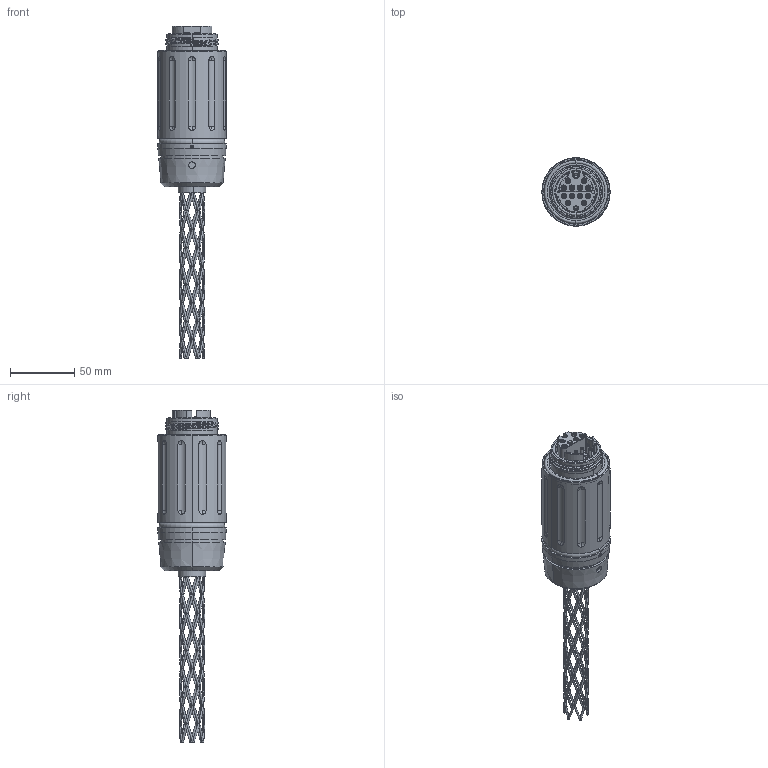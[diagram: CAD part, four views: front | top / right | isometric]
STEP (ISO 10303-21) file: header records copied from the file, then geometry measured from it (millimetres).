
FILE_DESCRIPTION (( 'STEP AP214' ), '1' );
FILE_NAME ('QFOCA-G1-PHHX-12CH-X-GXXX.STEP', '2025-06-06T01:31:45', ( '' ), ( '' ), 'SwSTEP 2.0', 'SolidWorks 2024', '' );
FILE_SCHEMA (( 'AUTOMOTIVE_DESIGN' ));
Products named in the file (1): QFOCA-G1-PHHX-12CH-X-GXXX
Bounding box: 53.09 x 53.09 x 258.12 mm (x, y, z)
Volume: 227449.6 mm3; surface area: 57774.9 mm2
Topology: 8 solids, 22 shells, 919 faces, 2270 edges, 1335 vertices
Faces by surface type: cylinder 250, bspline 236, plane 161, cone 131, torus 101, sphere 40
Entity records: 124642 total; most frequent: CARTESIAN_POINT 105192, ORIENTED_EDGE 4532, DIRECTION 3630, EDGE_CURVE 2266, AXIS2_PLACEMENT_3D 1527, VERTEX_POINT 1335, EDGE_LOOP 1001, ADVANCED_FACE 919
